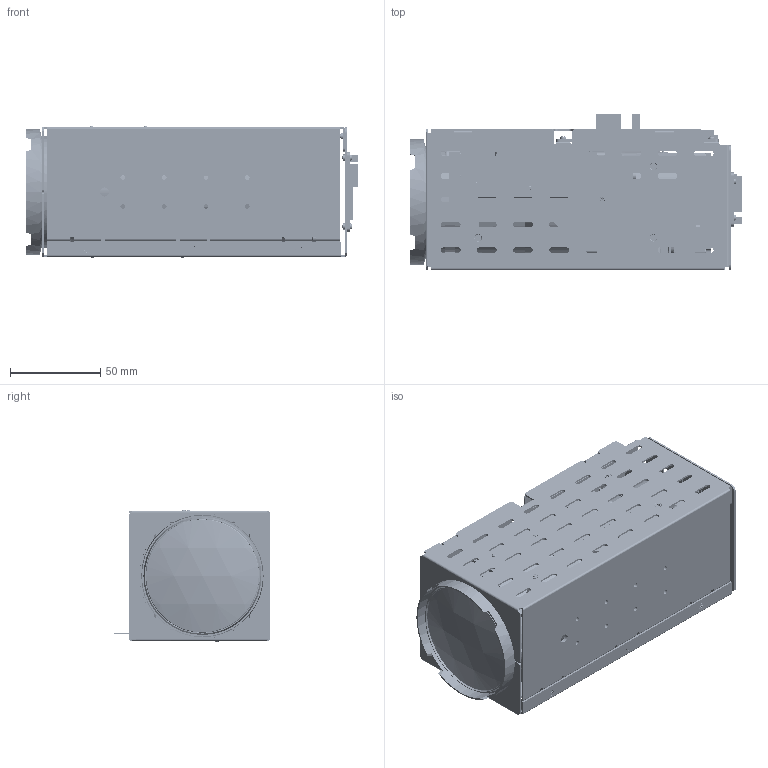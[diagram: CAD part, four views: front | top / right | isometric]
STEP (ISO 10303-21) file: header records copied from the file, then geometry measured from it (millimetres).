
FILE_DESCRIPTION((''),'2;1');
FILE_NAME('52IPHD-3D_ASM_ASM','2023-11-23T',('ming.wen'),(''),'CREO PARAMETRIC BY PTC INC, 2018070','CREO PARAMETRIC BY PTC INC, 2018070','');
FILE_SCHEMA(('AUTOMOTIVE_DESIGN { 1 0 10303 214 1 1 1 1 }'));
Length unit declared in the file: millimetre
Products named in the file (38): MSBR-36; MSBR-35; MSBR-34; MSBR-33; MSBR-32; MSBR-31; MSBR-30; MSBR-29; MSBR-28; MSBR-27; MSBR-26; MSBR-25; MSBR-24; MSBR-23; MSBR-22; MSBR-21; MSBR-20; MSBR-19; MSBR-18; MSBR-17; MSBR-16; MSBR-15; MSBR-14; MSBR-13; MSBR-12; MSBR-11; MSBR-10; MSBR-9; MSBR-8; MSBR-7; MSBR-6; MSBR-5; MSBR-4; MSBR-3; MSBR-2; MSBR-1; _52IPHD-3D_ASM; 52IPHD-3D_ASM_ASM
Assembly tree (37 placements, depth 2):
  52IPHD-3D_ASM_ASM
    MSBR-36
    MSBR-35
    MSBR-34
    MSBR-33
    MSBR-32
    MSBR-31
    MSBR-30
    MSBR-29
    MSBR-28
    MSBR-27
    MSBR-26
    MSBR-25
    MSBR-24
    MSBR-23
    MSBR-22
    MSBR-21
    MSBR-20
    MSBR-19
    MSBR-18
    MSBR-17
    MSBR-16
    MSBR-15
    MSBR-14
    MSBR-13
    MSBR-12
    MSBR-11
    MSBR-10
    MSBR-9
    MSBR-8
    MSBR-7
    MSBR-6
    MSBR-5
    MSBR-4
    MSBR-3
    MSBR-2
    MSBR-1
    _52IPHD-3D_ASM
Bounding box: 183.7 x 86.5 x 72.8 mm (x, y, z)
Volume: 181284.3 mm3; surface area: 264253.3 mm2
Topology: 36 solids, 87 shells, 5600 faces, 15662 edges, 10454 vertices
Faces by surface type: plane 3483, cylinder 1559, cone 289, torus 240, bspline 26, sphere 3
Entity records: 201467 total; most frequent: CARTESIAN_POINT 34689, DIRECTION 31796, ORIENTED_EDGE 31324, EDGE_CURVE 15662, AXIS2_PLACEMENT_3D 10875, VERTEX_POINT 10454, VECTOR 10046, LINE 10046
